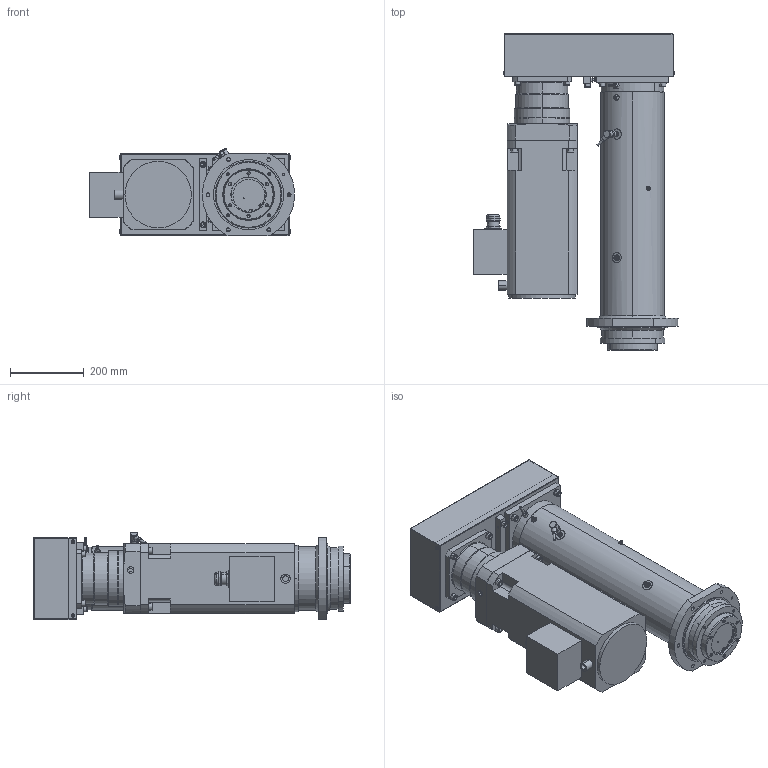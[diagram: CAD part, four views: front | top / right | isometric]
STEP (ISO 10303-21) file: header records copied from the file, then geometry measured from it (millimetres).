
FILE_DESCRIPTION (( 'STEP AP203' ), '1' );
FILE_NAME ('374091.STEP', '2018-02-08T14:34:30', ( '' ), ( '' ), 'SwSTEP 2.0', 'SolidWorks 2016', '' );
FILE_SCHEMA (( 'CONFIG_CONTROL_DESIGN' ));
Products named in the file (1): 374091
Bounding box: 555.64 x 858 x 238.42 mm (x, y, z)
Volume: 33236158.7 mm3; surface area: 2867693.2 mm2
Topology: 52 solids, 52 shells, 1884 faces, 4423 edges, 2681 vertices
Faces by surface type: plane 735, cylinder 724, cone 353, torus 66, bspline 6
Entity records: 58657 total; most frequent: CARTESIAN_POINT 15065, DIRECTION 9584, ORIENTED_EDGE 8550, EDGE_CURVE 4275, AXIS2_PLACEMENT_3D 3740, VERTEX_POINT 2681, EDGE_LOOP 2258, VECTOR 2104
